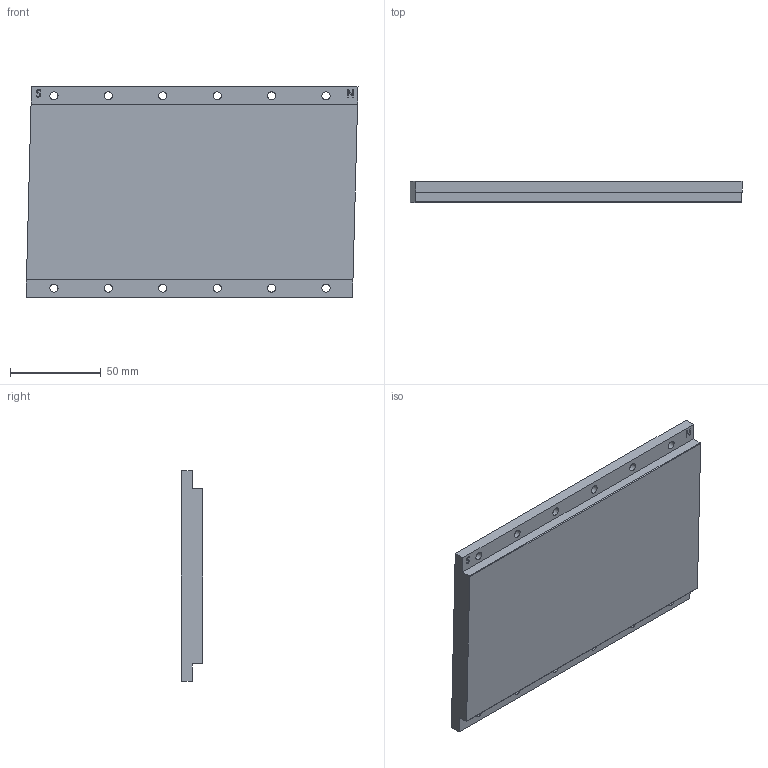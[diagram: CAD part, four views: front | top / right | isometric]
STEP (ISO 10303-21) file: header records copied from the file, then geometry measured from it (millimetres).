
FILE_DESCRIPTION( ( 'Unknown' ), '1' );
FILE_NAME( 'C:/Users/gyt/Desktop/电机制造图/DPD/DPD修改/官网3D/DPD116M180.stp', 'Unknown', ( 'Unknown' ), ( 'Unknown' ), 'PSStep 17.0.49', 'Unknown', ' ' );
FILE_SCHEMA( ( 'AUTOMOTIVE_DESIGN { 1 0 10303 214 1 1 1 1 }' ) );
Length unit declared in the file: millimetre
Products named in the file (1): 1
Bounding box: 183.03 x 11.6 x 116 mm (x, y, z)
Volume: 221896.6 mm3; surface area: 48993.1 mm2
Topology: 1 solids, 1 shells, 42 faces, 114 edges, 76 vertices
Faces by surface type: plane 22, cylinder 14, extrusion 6
Full cylindrical faces by diameter (mm): 4.5 x12
Entity records: 1899 total; most frequent: CARTESIAN_POINT 518, ORIENTED_EDGE 204, DIRECTION 178, EDGE_CURVE 102, EDGE_LOOP 80, VERTEX_POINT 76, AXIS2_PLACEMENT_3D 65, FACE_OUTER_BOUND 54
